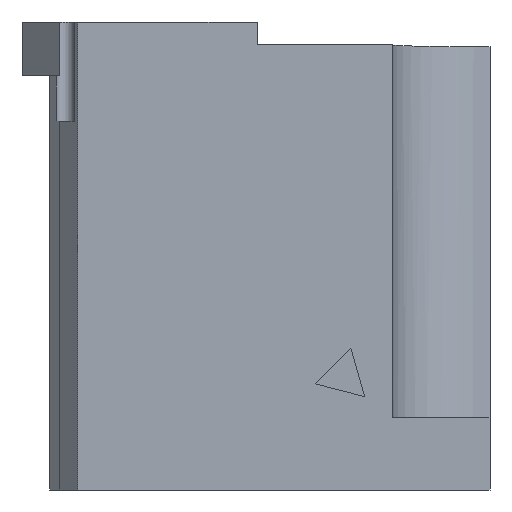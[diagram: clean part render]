
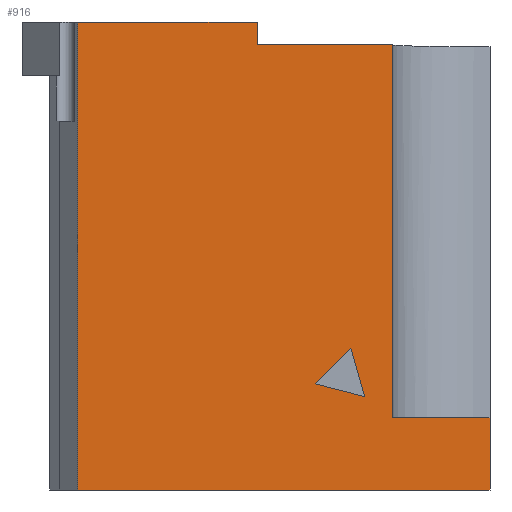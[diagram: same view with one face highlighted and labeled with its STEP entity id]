
A CAD part, front view. The second image highlights one B-rep face of the part: STEP entity #916.
In plain terms, the highlighted planar face has unit normal (0, -1, 0).
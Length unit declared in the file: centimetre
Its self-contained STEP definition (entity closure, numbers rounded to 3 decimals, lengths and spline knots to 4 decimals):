
#5 = VERTEX_POINT ( 'NONE', #243 ) ;
#9 = CARTESIAN_POINT ( 'NONE',  ( 627.3377, 0., 226.7358 ) ) ;
#25 = EDGE_LOOP ( 'NONE', ( #486, #960, #368 ) ) ;
#27 = CARTESIAN_POINT ( 'NONE',  ( 502.2279, 0., 951.5089 ) ) ;
#67 = ORIENTED_EDGE ( 'NONE', *, *, #818, .F. ) ;
#106 = LINE ( 'NONE', #9, #708 ) ;
#110 = CARTESIAN_POINT ( 'NONE',  ( 502.2279, 0., 951.5089 ) ) ;
#114 = CARTESIAN_POINT ( 'NONE',  ( 119.4159, 0., 1000. ) ) ;
#116 = VERTEX_POINT ( 'NONE', #560 ) ;
#131 = FACE_OUTER_BOUND ( 'NONE', #714, .T. ) ;
#152 = EDGE_CURVE ( 'NONE', #878, #116, #935, .T. ) ;
#153 = VERTEX_POINT ( 'NONE', #863 ) ;
#154 = DIRECTION ( 'NONE',  ( -0.275, 0., 0.962 ) ) ;
#188 = DIRECTION ( 'NONE',  ( 0., 0., 1. ) ) ;
#194 = AXIS2_PLACEMENT_3D ( 'NONE', #565, #334, #480 ) ;
#199 = CARTESIAN_POINT ( 'NONE',  ( 790.7351, 0., 154.0873 ) ) ;
#218 = CARTESIAN_POINT ( 'NONE',  ( 1000., 0., 0. ) ) ;
#229 = DIRECTION ( 'NONE',  ( 1., 0., 0. ) ) ;
#238 = VECTOR ( 'NONE', #638, 100. ) ;
#243 = CARTESIAN_POINT ( 'NONE',  ( 702.9119, 0., 302.31 ) ) ;
#247 = CARTESIAN_POINT ( 'NONE',  ( 119.4159, 0., 0. ) ) ;
#254 = VERTEX_POINT ( 'NONE', #114 ) ;
#255 = FACE_BOUND ( 'NONE', #25, .T. ) ;
#259 = EDGE_CURVE ( 'NONE', #566, #116, #406, .T. ) ;
#263 = DIRECTION ( 'NONE',  ( 1., 0., 0. ) ) ;
#268 = LINE ( 'NONE', #860, #829 ) ;
#270 = PLANE ( 'NONE',  #194 ) ;
#271 = VECTOR ( 'NONE', #881, 100. ) ;
#279 = EDGE_CURVE ( 'NONE', #5, #709, #268, .T. ) ;
#285 = CARTESIAN_POINT ( 'NONE',  ( 732.2575, 0., 199.5248 ) ) ;
#299 = ORIENTED_EDGE ( 'NONE', *, *, #632, .T. ) ;
#334 = DIRECTION ( 'NONE',  ( 0., 1., 0. ) ) ;
#368 = ORIENTED_EDGE ( 'NONE', *, *, #796, .F. ) ;
#377 = EDGE_CURVE ( 'NONE', #566, #153, #797, .T. ) ;
#397 = ORIENTED_EDGE ( 'NONE', *, *, #666, .F. ) ;
#399 = LINE ( 'NONE', #27, #658 ) ;
#406 = LINE ( 'NONE', #199, #473 ) ;
#414 = CARTESIAN_POINT ( 'NONE',  ( 502.2279, 0., 951.5089 ) ) ;
#425 = VECTOR ( 'NONE', #263, 100. ) ;
#443 = LINE ( 'NONE', #745, #501 ) ;
#448 = ORIENTED_EDGE ( 'NONE', *, *, #152, .F. ) ;
#469 = VECTOR ( 'NONE', #740, 100. ) ;
#473 = VECTOR ( 'NONE', #188, 100. ) ;
#480 = DIRECTION ( 'NONE',  ( 0., 0., 1. ) ) ;
#486 = ORIENTED_EDGE ( 'NONE', *, *, #279, .F. ) ;
#501 = VECTOR ( 'NONE', #229, 100. ) ;
#514 = VECTOR ( 'NONE', #904, 100. ) ;
#528 = LINE ( 'NONE', #536, #514 ) ;
#536 = CARTESIAN_POINT ( 'NONE',  ( 1000., 0., 1000. ) ) ;
#547 = ORIENTED_EDGE ( 'NONE', *, *, #884, .T. ) ;
#560 = CARTESIAN_POINT ( 'NONE',  ( 790.7351, 0., 951.5089 ) ) ;
#565 = CARTESIAN_POINT ( 'NONE',  ( 0., 0., 1000. ) ) ;
#566 = VERTEX_POINT ( 'NONE', #581 ) ;
#581 = CARTESIAN_POINT ( 'NONE',  ( 790.7351, 0., 154.0873 ) ) ;
#598 = CARTESIAN_POINT ( 'NONE',  ( 0., 0., 0. ) ) ;
#600 = EDGE_CURVE ( 'NONE', #718, #5, #958, .T. ) ;
#609 = CARTESIAN_POINT ( 'NONE',  ( 627.3377, 0., 226.7358 ) ) ;
#619 = DIRECTION ( 'NONE',  ( -0.707, 0., -0.707 ) ) ;
#622 = CARTESIAN_POINT ( 'NONE',  ( 119.4159, 0., 1000. ) ) ;
#632 = EDGE_CURVE ( 'NONE', #683, #635, #968, .T. ) ;
#635 = VERTEX_POINT ( 'NONE', #218 ) ;
#638 = DIRECTION ( 'NONE',  ( 0., 0., -1. ) ) ;
#658 = VECTOR ( 'NONE', #696, 100. ) ;
#666 = EDGE_CURVE ( 'NONE', #254, #905, #443, .T. ) ;
#683 = VERTEX_POINT ( 'NONE', #247 ) ;
#685 = CARTESIAN_POINT ( 'NONE',  ( 732.2575, 0., 199.5248 ) ) ;
#696 = DIRECTION ( 'NONE',  ( 0., 0., -1. ) ) ;
#708 = VECTOR ( 'NONE', #922, 100. ) ;
#709 = VERTEX_POINT ( 'NONE', #609 ) ;
#714 = EDGE_LOOP ( 'NONE', ( #781, #448, #915, #397, #547, #299, #67, #832 ) ) ;
#718 = VERTEX_POINT ( 'NONE', #685 ) ;
#740 = DIRECTION ( 'NONE',  ( 1., 0., 0. ) ) ;
#745 = CARTESIAN_POINT ( 'NONE',  ( 0., 0., 1000. ) ) ;
#781 = ORIENTED_EDGE ( 'NONE', *, *, #259, .T. ) ;
#796 = EDGE_CURVE ( 'NONE', #709, #718, #106, .T. ) ;
#797 = LINE ( 'NONE', #956, #271 ) ;
#818 = EDGE_CURVE ( 'NONE', #153, #635, #528, .T. ) ;
#829 = VECTOR ( 'NONE', #619, 100. ) ;
#832 = ORIENTED_EDGE ( 'NONE', *, *, #377, .F. ) ;
#843 = VECTOR ( 'NONE', #154, 100. ) ;
#860 = CARTESIAN_POINT ( 'NONE',  ( 702.9119, 0., 302.31 ) ) ;
#863 = CARTESIAN_POINT ( 'NONE',  ( 1000., 0., 154.0873 ) ) ;
#871 = EDGE_CURVE ( 'NONE', #905, #878, #399, .T. ) ;
#878 = VERTEX_POINT ( 'NONE', #110 ) ;
#881 = DIRECTION ( 'NONE',  ( 1., 0., 0. ) ) ;
#884 = EDGE_CURVE ( 'NONE', #254, #683, #943, .T. ) ;
#904 = DIRECTION ( 'NONE',  ( 0., 0., -1. ) ) ;
#905 = VERTEX_POINT ( 'NONE', #927 ) ;
#915 = ORIENTED_EDGE ( 'NONE', *, *, #871, .F. ) ;
#916 = ADVANCED_FACE ( 'NONE', ( #255, #131 ), #270, .F. ) ;
#922 = DIRECTION ( 'NONE',  ( 0.968, 0., -0.251 ) ) ;
#927 = CARTESIAN_POINT ( 'NONE',  ( 502.2279, 0., 1000. ) ) ;
#935 = LINE ( 'NONE', #414, #425 ) ;
#943 = LINE ( 'NONE', #622, #238 ) ;
#956 = CARTESIAN_POINT ( 'NONE',  ( 0., 0., 154.0873 ) ) ;
#958 = LINE ( 'NONE', #285, #843 ) ;
#960 = ORIENTED_EDGE ( 'NONE', *, *, #600, .F. ) ;
#968 = LINE ( 'NONE', #598, #469 ) ;
